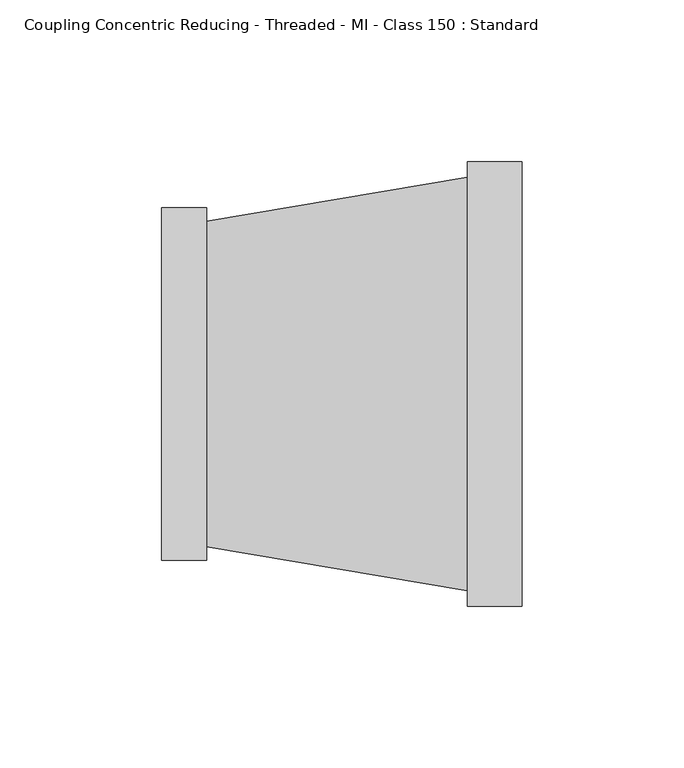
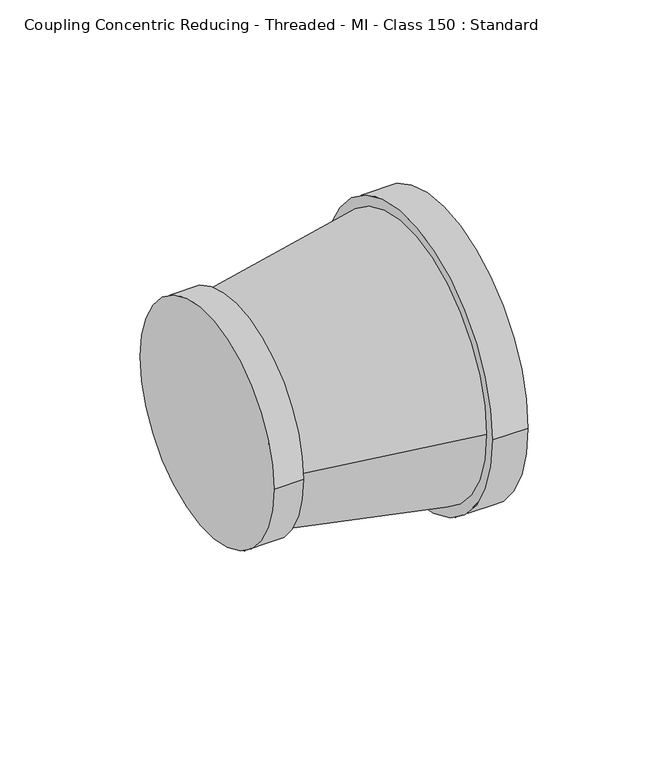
"""IFC4 building model written with IfcOpenShell, lengths in millimetres: pipe fitting geometry, Coupling Concentric Reducing - Threaded - MI - Class 150 : Standard."""

from ifc_helpers import new_model, si_unit, frame, origin, place, context, project, spatial, polyline, circle_curve, source, transform, mapped, element, save
from ifc_brep_helpers import plane_surface, cylinder_surface, revolved_surface, advanced_brep


def coupling_concentric_reducing_threaded_mi_class_150_standard_07b3985c(model_context):
    return source(origin(), model_context, "Body", "AdvancedBrep", [
        advanced_brep(
        [(13.9, 50.32, 0.0), (94.5, 63.93, 0.0), (94.5, -63.93, 0.0), (13.9, -50.32, 0.0), (111.3, -68.6, 0.0), (111.3, 68.6, 0.0), (94.5, -68.6, 0.0), (94.5, 68.6, 0.0), (13.9, -54.4, 0.0), (13.9, 54.4, 0.0), (0.0, -54.4, 0.0), (0.0, 54.4, 0.0)],
        [
            (0, 1),
            (1, 2, circle_curve(frame((94.5, 0.0, 0.0), z_axis=(-1.0, 0.0, 0.0), x_axis=(0.0, -1.0, 0.0)), 63.93)),
            (2, 3),
            (3, 0, circle_curve(frame((13.9, 0.0, 0.0), z_axis=(1.0, 0.0, 0.0), x_axis=(0.0, -1.0, 0.0)), 50.32)),
            (0, 3, circle_curve(frame((13.9, 0.0, 0.0), z_axis=(1.0, 0.0, 0.0), x_axis=(0.0, 1.0, 0.0)), 50.32)),
            (2, 1, circle_curve(frame((94.5, 0.0, 0.0), z_axis=(-1.0, 0.0, 0.0), x_axis=(0.0, 1.0, 0.0)), 63.93)),
            (4, 5, circle_curve(frame((111.3, 0.0, 0.0), z_axis=(1.0, 0.0, 0.0), x_axis=(0.0, 1.0, 0.0)), 68.6)),
            (5, 4, circle_curve(frame((111.3, 0.0, 0.0), z_axis=(1.0, 0.0, 0.0), x_axis=(0.0, 1.0, 0.0)), 68.6)),
            (6, 7, circle_curve(frame((94.5, 0.0, 0.0), z_axis=(-1.0, 0.0, 0.0), x_axis=(0.0, 1.0, 0.0)), 68.6)),
            (7, 6, circle_curve(frame((94.5, 0.0, 0.0), z_axis=(-1.0, 0.0, 0.0), x_axis=(0.0, 1.0, 0.0)), 68.6)),
            (4, 6),
            (7, 5),
            (8, 9, circle_curve(frame((13.9, 0.0, 0.0), z_axis=(1.0, 0.0, 0.0), x_axis=(0.0, 1.0, 0.0)), 54.4)),
            (9, 8, circle_curve(frame((13.9, 0.0, 0.0), z_axis=(1.0, 0.0, 0.0), x_axis=(0.0, 1.0, 0.0)), 54.4)),
            (10, 11, circle_curve(frame((0.0, 0.0, 0.0), z_axis=(-1.0, 0.0, 0.0), x_axis=(0.0, 1.0, 0.0)), 54.4)),
            (11, 10, circle_curve(frame((0.0, 0.0, 0.0), z_axis=(-1.0, 0.0, 0.0), x_axis=(0.0, 1.0, 0.0)), 54.4)),
            (8, 10),
            (11, 9),
        ],
        [
            revolved_surface(polyline([(13.899999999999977, 50.31999999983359, 0.0), (94.5, 63.93, 0.0)]), (-284.1008817, 0.0, 0.0), (1.0, 0.0, 0.0)),
            plane_surface(frame((111.3, 68.6, 0.0), z_axis=(1.0, 0.0, 0.0), x_axis=(0.0, 0.0, 1.0))),
            plane_surface(frame((94.5, 68.6, 0.0), z_axis=(-1.0, 0.0, 0.0), x_axis=(0.0, 0.0, -1.0))),
            cylinder_surface(frame((94.5, 0.0, 0.0), z_axis=(1.0, 0.0, 0.0), x_axis=(0.0, 1.0, 0.0)), 68.6),
            plane_surface(frame((13.9, 54.4, 0.0), z_axis=(1.0, 0.0, 0.0), x_axis=(0.0, 0.0, 1.0))),
            plane_surface(frame((0.0, 54.4, 0.0), z_axis=(-1.0, 0.0, 0.0), x_axis=(0.0, 0.0, -1.0))),
            cylinder_surface(frame((0.0, 0.0, 0.0), z_axis=(1.0, 0.0, 0.0), x_axis=(0.0, 1.0, 0.0)), 54.4),
        ],
        [
            (0, [[1, 2, 3, 4]]),
            (0, [[-1, 5, -3, 6]]),
            (1, [[7, 8]]),
            (2, [[9, 10], [-2, -6]]),
            (3, [[-7, 11, -10, 12]]),
            (3, [[-8, -12, -9, -11]]),
            (4, [[13, 14], [-4, -5]]),
            (5, [[15, 16]]),
            (6, [[-13, 17, -16, 18]]),
            (6, [[-14, -18, -15, -17]]),
        ],
    ),
    ])


if __name__ == "__main__":
    model = new_model("IFC4")
    model_context = context("Model", 3, world=origin())
    ifc_project = project(units=[si_unit("LENGTHUNIT", "METRE", prefix="MILLI")], contexts=[model_context])
    site = spatial("IfcSite", under=ifc_project)
    building = spatial("IfcBuilding", under=site)
    placement = place(None, origin())
    coupling_concentric_reducing_threaded_mi_class_150_standard_shape = coupling_concentric_reducing_threaded_mi_class_150_standard_07b3985c(model_context)
    element("IfcPipeFitting", 1, ObjectType="Coupling Concentric Reducing - Threaded - MI - Class 150 : Standard", at=placement, inside=building, context=model_context, shape_type="MappedRepresentation", body=[
        mapped(coupling_concentric_reducing_threaded_mi_class_150_standard_shape, transform((0.0, 0.0, 0.0), x_axis=(1.0, 0.0, 0.0), y_axis=(0.0, 1.0, 0.0), z_axis=(0.0, 0.0, 1.0))),
    ])
    save(model, "model.ifc")
